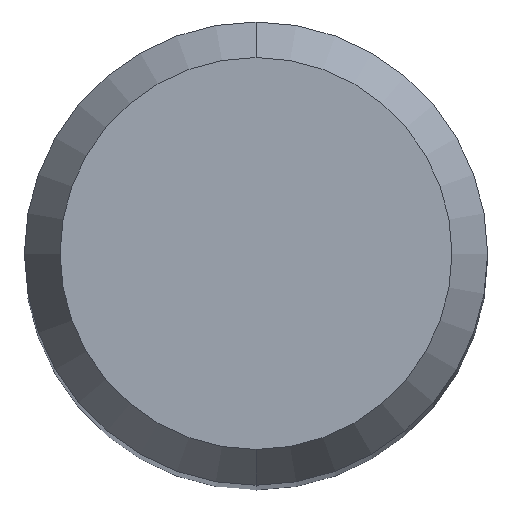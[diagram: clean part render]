
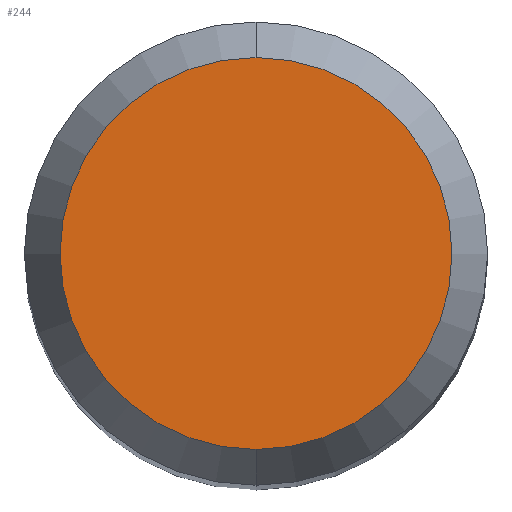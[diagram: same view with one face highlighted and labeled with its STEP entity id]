
A CAD part, top view. The second image highlights one B-rep face of the part: STEP entity #244.
In plain terms, the highlighted planar face has unit normal (0, 0, 1).
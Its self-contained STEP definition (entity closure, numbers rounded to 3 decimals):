
#244=ADVANCED_FACE('',(#659),#660,.T.);
#304=VERTEX_POINT('',#731);
#484=EDGE_CURVE('',#304,#608,#929,.T.);
#582=EDGE_CURVE('',#608,#304,#1036,.T.);
#608=VERTEX_POINT('',#1065);
#659=FACE_OUTER_BOUND('',#1113,.T.);
#660=PLANE('',#1114);
#731=CARTESIAN_POINT('',(0.,-2.538,0.0));
#929=CIRCLE('',#1578,2.538);
#1036=CIRCLE('',#1798,2.538);
#1065=CARTESIAN_POINT('',(0.0,2.538,0.0));
#1113=EDGE_LOOP('',(#1904,#1905));
#1114=AXIS2_PLACEMENT_3D('',#1906,#1907,#1908);
#1578=AXIS2_PLACEMENT_3D('',#2236,#2237,#2238);
#1798=AXIS2_PLACEMENT_3D('',#2355,#2356,#2357);
#1904=ORIENTED_EDGE('',*,*,#582,.F.);
#1905=ORIENTED_EDGE('',*,*,#484,.F.);
#1906=CARTESIAN_POINT('',(0.0,1.269,0.0));
#1907=DIRECTION('',(-0.0,0.0,1.0));
#1908=DIRECTION('',(0.0,-1.0,0.0));
#2236=CARTESIAN_POINT('',(0.0,0.0,0.0));
#2237=DIRECTION('',(0.0,0.0,-1.0));
#2238=DIRECTION('',(0.0,1.0,0.0));
#2355=CARTESIAN_POINT('',(0.0,0.0,0.0));
#2356=DIRECTION('',(0.0,0.0,-1.0));
#2357=DIRECTION('',(0.0,1.0,0.0));
